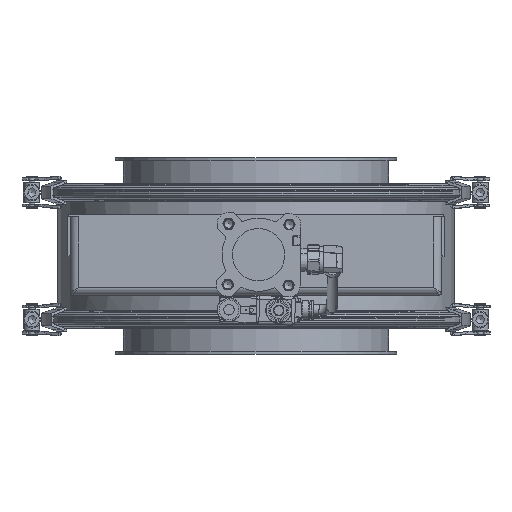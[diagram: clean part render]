
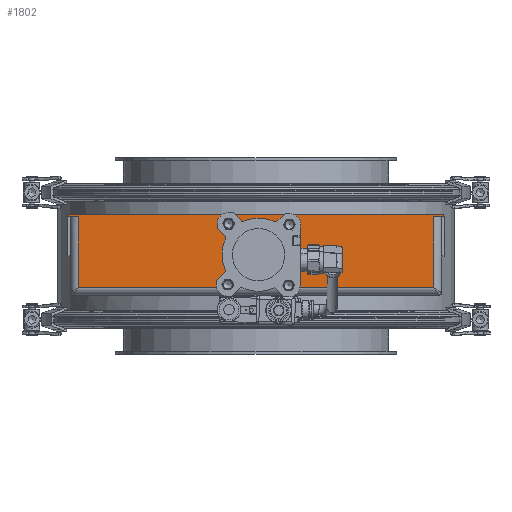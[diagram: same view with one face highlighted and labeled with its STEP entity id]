
A CAD part, left-side view. The second image highlights one B-rep face of the part: STEP entity #1802.
In plain terms, the highlighted planar face has unit normal (-1, 0, 0).
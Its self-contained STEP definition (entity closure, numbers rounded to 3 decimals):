
#859=CARTESIAN_POINT('',(-557.804,-136.,-24.));
#860=VERTEX_POINT('',#859);
#900=CARTESIAN_POINT('',(-557.804,-136.,30.0));
#901=VERTEX_POINT('',#900);
#909=CARTESIAN_POINT('',(-557.804,-136.,30.0));
#910=DIRECTION('',(0.0,0.0,-1.0));
#911=VECTOR('',#910,54.0);
#912=LINE('',#909,#911);
#913=EDGE_CURVE('',#901,#860,#912,.T.);
#965=CARTESIAN_POINT('',(-557.804,136.,-24.));
#966=VERTEX_POINT('',#965);
#990=CARTESIAN_POINT('',(-557.804,-136.,-24.));
#991=DIRECTION('',(0.0,1.0,0.0));
#992=VECTOR('',#991,272.);
#993=LINE('',#990,#992);
#994=EDGE_CURVE('',#860,#966,#993,.T.);
#1012=CARTESIAN_POINT('',(-557.804,136.,30.0));
#1013=VERTEX_POINT('',#1012);
#1014=CARTESIAN_POINT('',(-557.804,136.,-24.));
#1015=DIRECTION('',(0.0,0.0,1.0));
#1016=VECTOR('',#1015,54.);
#1017=LINE('',#1014,#1016);
#1018=EDGE_CURVE('',#966,#1013,#1017,.T.);
#1261=CARTESIAN_POINT('',(-557.804,17.,-14.25));
#1262=VERTEX_POINT('',#1261);
#1263=CARTESIAN_POINT('',(-557.804,17.,-18.0));
#1264=DIRECTION('',(1.0,0.0,0.0));
#1265=DIRECTION('',(0.0,0.0,1.0));
#1266=AXIS2_PLACEMENT_3D('',#1263,#1264,#1265);
#1267=CIRCLE('',#1266,3.75);
#1268=EDGE_CURVE('',#1262,#1262,#1267,.T.);
#1310=CARTESIAN_POINT('',(-557.804,-21.,23.75));
#1311=VERTEX_POINT('',#1310);
#1312=CARTESIAN_POINT('',(-557.804,-21.,20.0));
#1313=DIRECTION('',(1.0,0.0,0.0));
#1314=DIRECTION('',(0.0,0.0,1.0));
#1315=AXIS2_PLACEMENT_3D('',#1312,#1313,#1314);
#1316=CIRCLE('',#1315,3.75);
#1317=EDGE_CURVE('',#1311,#1311,#1316,.T.);
#1359=CARTESIAN_POINT('',(-557.804,-21.,-14.25));
#1360=VERTEX_POINT('',#1359);
#1361=CARTESIAN_POINT('',(-557.804,-21.,-18.0));
#1362=DIRECTION('',(1.0,0.0,0.0));
#1363=DIRECTION('',(0.0,0.0,1.0));
#1364=AXIS2_PLACEMENT_3D('',#1361,#1362,#1363);
#1365=CIRCLE('',#1364,3.75);
#1366=EDGE_CURVE('',#1360,#1360,#1365,.T.);
#1408=CARTESIAN_POINT('',(-557.804,17.,23.75));
#1409=VERTEX_POINT('',#1408);
#1410=CARTESIAN_POINT('',(-557.804,17.,20.0));
#1411=DIRECTION('',(1.0,0.0,0.0));
#1412=DIRECTION('',(0.0,0.0,1.0));
#1413=AXIS2_PLACEMENT_3D('',#1410,#1411,#1412);
#1414=CIRCLE('',#1413,3.75);
#1415=EDGE_CURVE('',#1409,#1409,#1414,.T.);
#1457=CARTESIAN_POINT('',(-557.804,-2.,19.5));
#1458=VERTEX_POINT('',#1457);
#1459=CARTESIAN_POINT('',(-557.804,-2.,1.));
#1460=DIRECTION('',(1.0,0.0,0.0));
#1461=DIRECTION('',(0.0,0.0,1.0));
#1462=AXIS2_PLACEMENT_3D('',#1459,#1460,#1461);
#1463=CIRCLE('',#1462,18.5);
#1464=EDGE_CURVE('',#1458,#1458,#1463,.T.);
#1505=CARTESIAN_POINT('',(-557.804,144.,30.0));
#1506=VERTEX_POINT('',#1505);
#1507=CARTESIAN_POINT('',(-557.804,144.,30.0));
#1508=DIRECTION('',(0.0,-1.0,0.0));
#1509=VECTOR('',#1508,8.);
#1510=LINE('',#1507,#1509);
#1511=EDGE_CURVE('',#1506,#1013,#1510,.T.);
#1709=CARTESIAN_POINT('',(-557.804,-142.,32.0));
#1710=VERTEX_POINT('',#1709);
#1711=CARTESIAN_POINT('',(-557.804,-144.,30.0));
#1712=VERTEX_POINT('',#1711);
#1713=CARTESIAN_POINT('',(-557.804,-142.,30.0));
#1714=DIRECTION('',(1.0,0.0,0.0));
#1715=DIRECTION('',(0.0,-0.707,0.707));
#1716=AXIS2_PLACEMENT_3D('',#1713,#1714,#1715);
#1717=CIRCLE('',#1716,2.);
#1718=EDGE_CURVE('',#1710,#1712,#1717,.T.);
#1754=CARTESIAN_POINT('',(-557.804,-144.,30.0));
#1755=DIRECTION('',(-1.0,0.0,0.0));
#1756=DIRECTION('',(0.0,0.0,1.0));
#1757=AXIS2_PLACEMENT_3D('',#1754,#1755,#1756);
#1758=PLANE('',#1757);
#1759=CARTESIAN_POINT('',(-557.804,-136.,30.0));
#1760=DIRECTION('',(0.0,-1.0,0.0));
#1761=VECTOR('',#1760,8.);
#1762=LINE('',#1759,#1761);
#1763=EDGE_CURVE('',#901,#1712,#1762,.T.);
#1764=ORIENTED_EDGE('',*,*,#1763,.T.);
#1765=ORIENTED_EDGE('',*,*,#1718,.F.);
#1766=CARTESIAN_POINT('',(-557.804,142.,32.0));
#1767=VERTEX_POINT('',#1766);
#1768=CARTESIAN_POINT('',(-557.804,-142.,32.0));
#1769=DIRECTION('',(0.0,1.0,0.0));
#1770=VECTOR('',#1769,284.);
#1771=LINE('',#1768,#1770);
#1772=EDGE_CURVE('',#1710,#1767,#1771,.T.);
#1773=ORIENTED_EDGE('',*,*,#1772,.T.);
#1774=CARTESIAN_POINT('',(-557.804,142.,30.0));
#1775=DIRECTION('',(1.0,0.0,0.0));
#1776=DIRECTION('',(0.0,0.707,0.707));
#1777=AXIS2_PLACEMENT_3D('',#1774,#1775,#1776);
#1778=CIRCLE('',#1777,2.);
#1779=EDGE_CURVE('',#1506,#1767,#1778,.T.);
#1780=ORIENTED_EDGE('',*,*,#1779,.F.);
#1781=ORIENTED_EDGE('',*,*,#1511,.T.);
#1782=ORIENTED_EDGE('',*,*,#1018,.F.);
#1783=ORIENTED_EDGE('',*,*,#994,.F.);
#1784=ORIENTED_EDGE('',*,*,#913,.F.);
#1785=EDGE_LOOP('',(#1764,#1765,#1773,#1780,#1781,#1782,#1783,#1784));
#1786=FACE_OUTER_BOUND('',#1785,.T.);
#1787=ORIENTED_EDGE('',*,*,#1268,.T.);
#1788=EDGE_LOOP('',(#1787));
#1789=FACE_BOUND('',#1788,.T.);
#1790=ORIENTED_EDGE('',*,*,#1317,.T.);
#1791=EDGE_LOOP('',(#1790));
#1792=FACE_BOUND('',#1791,.T.);
#1793=ORIENTED_EDGE('',*,*,#1366,.T.);
#1794=EDGE_LOOP('',(#1793));
#1795=FACE_BOUND('',#1794,.T.);
#1796=ORIENTED_EDGE('',*,*,#1415,.T.);
#1797=EDGE_LOOP('',(#1796));
#1798=FACE_BOUND('',#1797,.T.);
#1799=ORIENTED_EDGE('',*,*,#1464,.T.);
#1800=EDGE_LOOP('',(#1799));
#1801=FACE_BOUND('',#1800,.T.);
#1802=ADVANCED_FACE('',(#1786,#1789,#1792,#1795,#1798,#1801),#1758,.T.);
